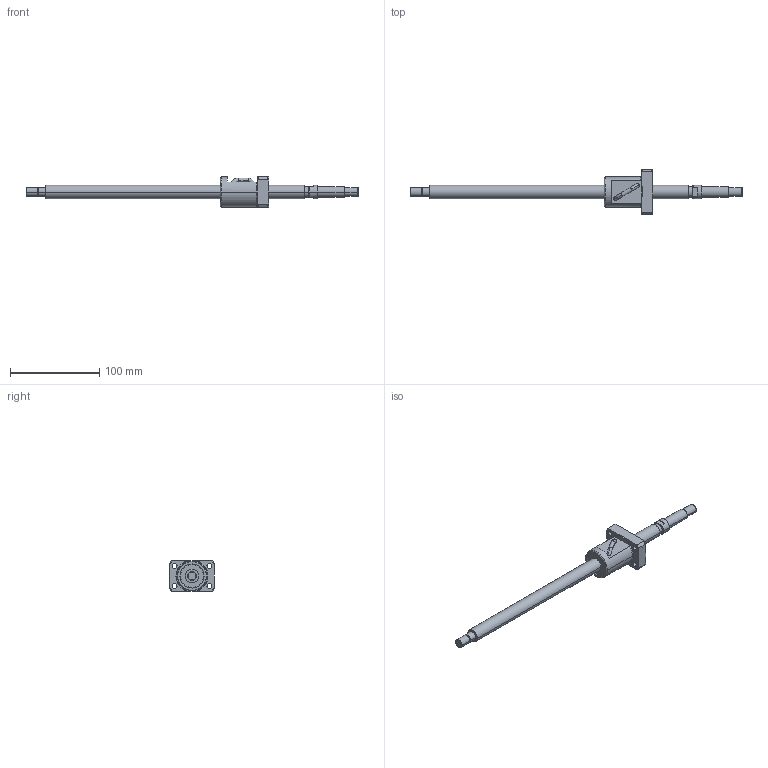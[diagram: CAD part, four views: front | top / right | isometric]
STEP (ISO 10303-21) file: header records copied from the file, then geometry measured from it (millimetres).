
FILE_DESCRIPTION (( 'STEP AP214' ), '1' );
FILE_NAME ('BS1515A-3D.STEP', '2014-03-05T14:48:58', ( '' ), ( '' ), 'SwSTEP 2.0', 'SolidWorks 2012', '' );
FILE_SCHEMA (( 'AUTOMOTIVE_DESIGN' ));
Length unit declared in the file: millimetre
Products named in the file (3): BS1515Aナット; BS1515AŽ²; BS1515A-3D
Assembly tree (2 placements, depth 2):
  BS1515A-3D
    BS1515AŽ²
    BS1515Aナット
Bounding box: 371 x 50 x 34 mm (x, y, z)
Volume: 100278.8 mm3; surface area: 31618.9 mm2
Topology: 2 solids, 2 shells, 156 faces, 398 edges, 257 vertices
Faces by surface type: cylinder 74, plane 42, cone 34, torus 4, bspline 2
Entity records: 6063 total; most frequent: CARTESIAN_POINT 2024, DIRECTION 834, ORIENTED_EDGE 792, EDGE_CURVE 396, AXIS2_PLACEMENT_3D 347, VERTEX_POINT 257, EDGE_LOOP 189, CIRCLE 188
